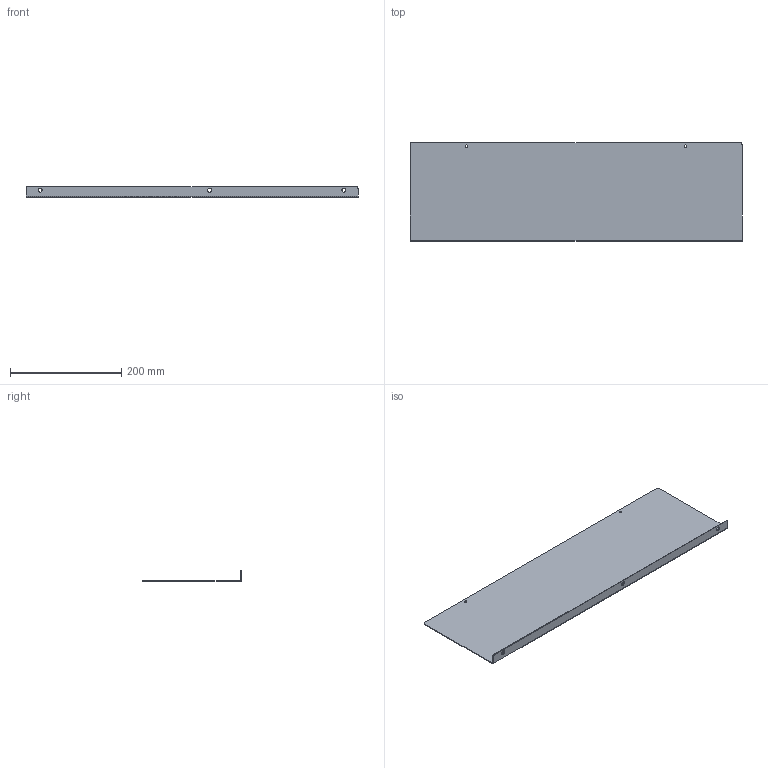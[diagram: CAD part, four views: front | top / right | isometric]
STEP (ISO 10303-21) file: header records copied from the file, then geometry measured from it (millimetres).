
FILE_DESCRIPTION((''),'2;1');
FILE_NAME('C:\Vault_Workspace\Inventor_Dwg\Inv-1\1100BA\WEBSITE\1100BA8024.stp','2015-02-02T15:13:28',('MichaelA'),(''),'Autodesk Inventor 2012','Autodesk Inventor 2012','');
FILE_SCHEMA(('AUTOMOTIVE_DESIGN { 1 0 10303 214 1 1 1 1 }'));
Length unit declared in the file: inch
Products named in the file (1): 1100BA-MASTER
Bounding box: 596.9 x 177.8 x 19.05 mm (x, y, z)
Volume: 162226.3 mm3; surface area: 234587.4 mm2
Topology: 1 solids, 1 shells, 23 faces, 55 edges, 34 vertices
Faces by surface type: plane 12, cylinder 11
Full cylindrical faces by diameter (mm): 4.496 x2, 7.137 x3
Entity records: 690 total; most frequent: DIRECTION 120, CARTESIAN_POINT 108, ORIENTED_EDGE 100, EDGE_CURVE 50, AXIS2_PLACEMENT_3D 46, EDGE_LOOP 38, VERTEX_POINT 34, VECTOR 28
